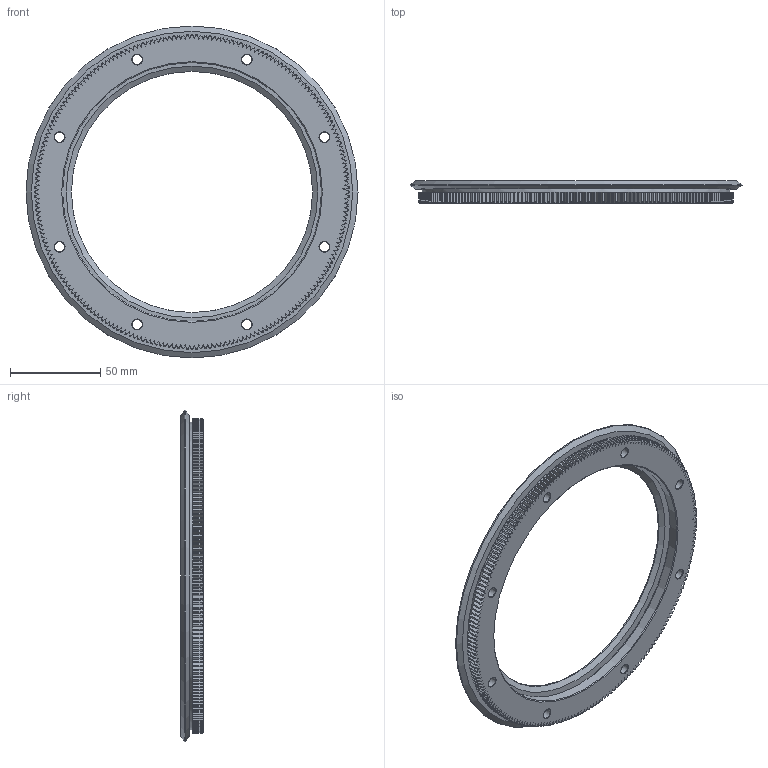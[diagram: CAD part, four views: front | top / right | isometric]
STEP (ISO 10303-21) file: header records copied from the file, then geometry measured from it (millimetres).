
FILE_DESCRIPTION( ( 'STEP AP203' ), '1' );
FILE_NAME( 'p:/temp/worker_56/temp/exporttempdir_3996_1864_HP7Tj/format_0/R25 159 R360 P.stp', '2021-08-30T04:11:58', ( 'License CC BY-ND 4.0' ), ( 'CADENAS' ), ' ', 'PARTsolutions', ' ' );
FILE_SCHEMA( ( 'CONFIG_CONTROL_DESIGN' ) );
Length unit declared in the file: millimetre
Products named in the file (1): _R25 159 R360 P
Bounding box: 184.19 x 12.25 x 184.19 mm (x, y, z)
Volume: 99239.1 mm3; surface area: 43370.5 mm2
Topology: 1 solids, 1 shells, 1343 faces, 3545 edges, 2215 vertices
Faces by surface type: plane 877, cylinder 235, cone 229, torus 2
Full cylindrical faces by diameter (mm): 5.5 x8, 9 x8, 143.6 x1, 148 x1, 170.4 x1
Entity records: 41514 total; most frequent: CARTESIAN_POINT 8389, ORIENTED_EDGE 7020, DIRECTION 6900, EDGE_CURVE 3510, AXIS2_PLACEMENT_3D 2478, VERTEX_POINT 2215, LINE 1944, VECTOR 1944
